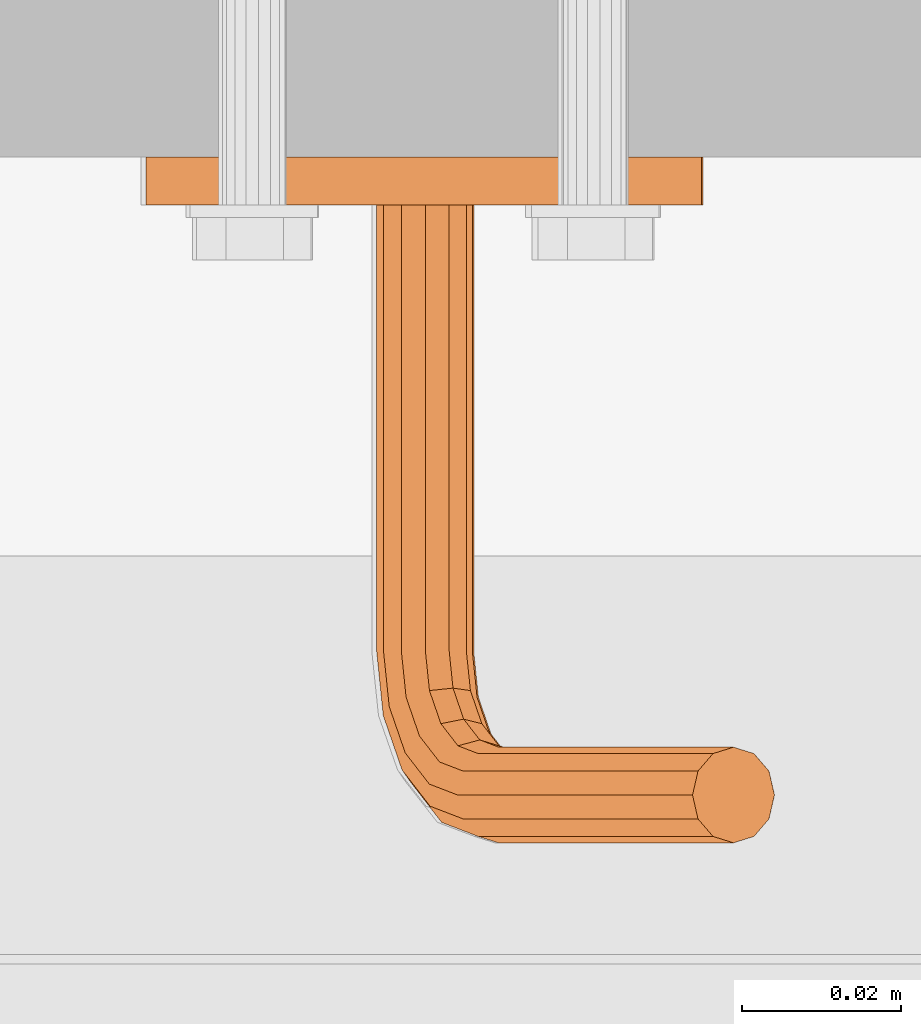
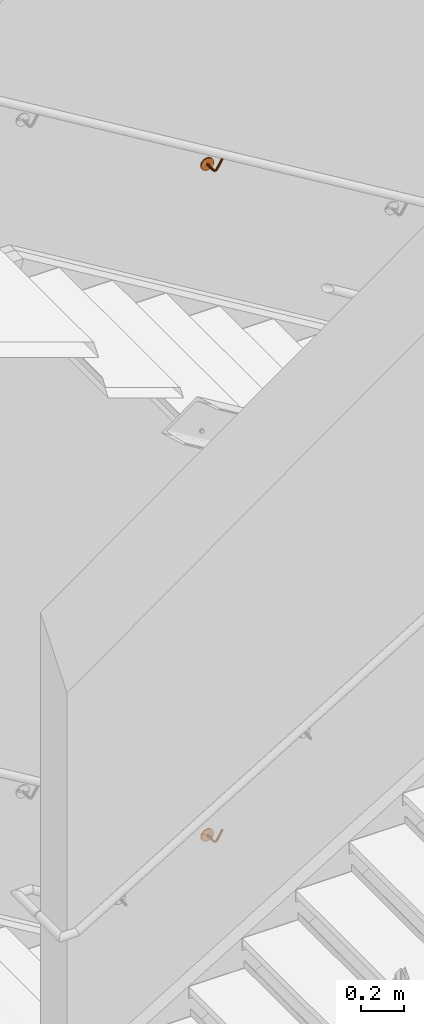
# One storey, part 392 of 410: 2 proxies.
"""IFC2X3 building model written with IfcOpenShell, lengths in millimetres."""

from ifc_helpers import new_model, entity, si_unit, converted_unit, origin_with_axes, place, context, project, spatial, faceted_brep, element, save


model = new_model("IFC2X3")

# Units and contexts
model_context = context("Model", 3, precision=1e-09, world=origin_with_axes())
ifc_project = project(units=[si_unit("LENGTHUNIT", "METRE", prefix="MILLI"), si_unit("AREAUNIT", "SQUARE_METRE"), si_unit("VOLUMEUNIT", "CUBIC_METRE"), converted_unit("PLANEANGLEUNIT", "DEGREE", entity("IfcPlaneAngleMeasure", 0.01745329), si_unit("PLANEANGLEUNIT", "RADIAN"), dimensions=[0, 0, 0, 0, 0, 0, 0])], contexts=[model_context])

# Site, building, storey
site_placement = place(None, origin_with_axes())
site = spatial("IfcSite", under=ifc_project, at=site_placement, Name="mKR Teilneubau & Sanierung BA1 - Ostfildern", CompositionType="ELEMENT")
building_placement = place(site_placement, origin_with_axes())
building = spatial("IfcBuilding", under=site, at=building_placement, Name="Struktur 1", CompositionType="ELEMENT")
storey_placement = place(building_placement, origin_with_axes())
storey = spatial("IfcBuildingStorey", under=building, at=storey_placement, Name="Default Storey", CompositionType="ELEMENT", Elevation=0.0)

# Proxies
proxy_1_placement = place(None, origin_with_axes())
element("IfcBuildingElementProxy", 1, at=proxy_1_placement, inside=storey, ObjectType="-", context=model_context, shape_type="Brep", body=[
    faceted_brep([(47.7912748, 18620.000061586, 7507.643587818), (47.7912748, 18614.000061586, 7507.643587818), (46.205855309, 18614.000061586, 7506.118373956), (46.205855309, 18620.000061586, 7506.118373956), (102.778214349, 18614.000061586, 7506.202316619), (96.135632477, 18614.000061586, 7515.61634147), (86.79623514, 18614.000061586, 7522.36344568), (75.772090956, 18614.000061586, 7525.712475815), (64.257837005, 18614.000061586, 7525.300512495), (53.501221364, 18614.000061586, 7521.172198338), (44.667890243, 18614.000061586, 7513.77490024), (38.715072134, 18614.000061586, 7503.91023023), (36.287847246, 18614.000061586, 7492.647178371), (37.649243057, 18614.000061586, 7481.206271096), (42.651731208, 18614.000061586, 7470.827308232), (50.753214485, 18614.000061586, 7462.635011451), (61.075771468, 18614.000061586, 7457.517143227), (72.500792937, 18614.000061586, 7456.028303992), (83.790200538, 18614.000061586, 7458.329832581), (93.720611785, 18614.000061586, 7464.172322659), (101.215912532, 18614.000061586, 7472.922649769), (105.463870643, 18614.000061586, 7483.632580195), (106.004153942, 18614.000061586, 7495.141526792), (90.600657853, 18614.000061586, 7481.810339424), (92.736278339, 18614.000061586, 7482.33850363), (94.849862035, 18614.000061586, 7481.728097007), (96.375075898, 18614.000061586, 7480.142677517), (96.903240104, 18614.000061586, 7478.007057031), (96.292833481, 18614.000061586, 7475.893473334), (94.707413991, 18614.000061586, 7474.368259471), (92.571793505, 18614.000061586, 7473.840095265), (90.458209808, 18614.000061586, 7474.450501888), (88.932995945, 18614.000061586, 7476.035921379), (88.404831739, 18614.000061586, 7478.171541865), (89.015238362, 18614.000061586, 7480.285125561), (49.926895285, 18614.000061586, 7508.171752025), (52.040478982, 18614.000061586, 7507.561345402), (53.565692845, 18614.000061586, 7505.975925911), (54.093857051, 18614.000061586, 7503.840305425), (53.483450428, 18614.000061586, 7501.726721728), (51.898030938, 18614.000061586, 7500.201507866), (49.762410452, 18614.000061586, 7499.673343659), (47.648826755, 18614.000061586, 7500.283750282), (46.123612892, 18614.000061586, 7501.869169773), (45.595448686, 18614.000061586, 7504.004790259), (49.926895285, 18620.000061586, 7508.171752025), (72.500792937, 18620.000061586, 7456.028303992), (61.075771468, 18620.000061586, 7457.517143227), (50.753214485, 18620.000061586, 7462.635011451), (42.651731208, 18620.000061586, 7470.827308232), (37.649243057, 18620.000061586, 7481.206271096), (36.287847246, 18620.000061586, 7492.647178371), (38.715072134, 18620.000061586, 7503.91023023), (44.667890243, 18620.000061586, 7513.77490024), (53.501221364, 18620.000061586, 7521.172198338), (64.257837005, 18620.000061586, 7525.300512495), (75.772090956, 18620.000061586, 7525.712475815), (86.79623514, 18620.000061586, 7522.36344568), (96.135632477, 18620.000061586, 7515.61634147), (102.778214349, 18620.000061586, 7506.202316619), (106.004153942, 18620.000061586, 7495.141526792), (105.463870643, 18620.000061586, 7483.632580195), (101.215912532, 18620.000061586, 7472.922649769), (93.720611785, 18620.000061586, 7464.172322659), (83.790200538, 18620.000061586, 7458.329832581), (45.595448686, 18620.000061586, 7504.004790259), (46.123612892, 18620.000061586, 7501.869169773), (47.648826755, 18620.000061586, 7500.283750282), (49.762410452, 18620.000061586, 7499.673343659), (51.898030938, 18620.000061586, 7500.201507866), (53.483450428, 18620.000061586, 7501.726721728), (54.093857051, 18620.000061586, 7503.840305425), (53.565692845, 18620.000061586, 7505.975925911), (52.040478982, 18620.000061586, 7507.561345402), (88.404831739, 18620.000061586, 7478.171541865), (88.932995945, 18620.000061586, 7476.035921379), (90.458209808, 18620.000061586, 7474.450501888), (92.571793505, 18620.000061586, 7473.840095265), (94.707413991, 18620.000061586, 7474.368259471), (96.292833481, 18620.000061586, 7475.893473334), (96.903240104, 18620.000061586, 7478.007057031), (96.375075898, 18620.000061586, 7480.142677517), (94.849862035, 18620.000061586, 7481.728097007), (92.736278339, 18620.000061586, 7482.33850363), (90.600657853, 18620.000061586, 7481.810339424), (89.015238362, 18620.000061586, 7480.285125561)], [[[0, 1, 2, 3]], [[4, 5, 6, 7, 8, 9, 10, 11, 12, 13, 14, 15, 16, 17, 18, 19, 20, 21, 22], [23, 24, 25, 26, 27, 28, 29, 30, 31, 32, 33, 34], [2, 1, 35, 36, 37, 38, 39, 40, 41, 42, 43, 44]], [[1, 0, 45, 35]], [[46, 47, 48, 49, 50, 51, 52, 53, 54, 55, 56, 57, 58, 59, 60, 61, 62, 63, 64], [0, 3, 65, 66, 67, 68, 69, 70, 71, 72, 73, 45], [74, 75, 76, 77, 78, 79, 80, 81, 82, 83, 84, 85]], [[3, 2, 44, 65]], [[10, 53, 52, 11]], [[65, 44, 43, 66]], [[35, 45, 73, 36]], [[53, 10, 9, 54]], [[66, 43, 42, 67]], [[11, 52, 51, 12]], [[36, 73, 72, 37]], [[8, 55, 54, 9]], [[67, 42, 41, 68]], [[55, 8, 7, 56]], [[50, 13, 12, 51]], [[37, 72, 71, 38]], [[13, 50, 49, 14]], [[68, 41, 40, 69]], [[38, 71, 70, 39]], [[56, 7, 6, 57]], [[69, 40, 39, 70]], [[14, 49, 48, 15]], [[57, 6, 5, 58]], [[34, 85, 84, 23]], [[15, 48, 47, 16]], [[85, 34, 33, 74]], [[23, 84, 83, 24]], [[58, 5, 4, 59]], [[16, 47, 46, 17]], [[74, 33, 32, 75]], [[24, 83, 82, 25]], [[59, 4, 22, 60]], [[17, 46, 64, 18]], [[75, 32, 31, 76]], [[25, 82, 81, 26]], [[60, 22, 21, 61]], [[18, 64, 63, 19]], [[76, 31, 30, 77]], [[20, 62, 61, 21]], [[26, 81, 80, 27]], [[62, 20, 19, 63]], [[77, 30, 29, 78]], [[27, 80, 79, 28]], [[78, 29, 28, 79]]]),
    faceted_brep([(76.386470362, 18558.000061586, 7487.905933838), (76.386470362, 18614.000061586, 7487.905933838), (77.248220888, 18614.000061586, 7490.889816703), (77.248220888, 18558.000061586, 7490.889816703), (84.998195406, 18537.000061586, 7503.732631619), (114.448098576, 18537.000061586, 7552.5353283), (112.56777997, 18534.803909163, 7553.670003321), (83.1178768, 18534.803909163, 7504.86730664), (85.686439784, 18540.000061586, 7503.317311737), (115.136342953, 18540.000061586, 7552.120008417), (78.53155388, 18536.569611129, 7497.267114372), (80.846093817, 18538.598591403, 7496.852006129), (65.996111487, 18614.000061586, 7488.107036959), (65.250467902, 18614.000061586, 7491.122030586), (66.112218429, 18614.000061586, 7494.105913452), (68.35045771, 18614.000061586, 7496.259156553), (71.365451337, 18614.000061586, 7497.004800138), (74.349334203, 18614.000061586, 7496.143049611), (76.502577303, 18614.000061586, 7493.904810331), (74.148231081, 18614.000061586, 7485.752690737), (71.133237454, 18614.000061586, 7485.007047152), (68.149354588, 18614.000061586, 7485.868797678), (74.148231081, 18558.000061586, 7485.752690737), (77.838152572, 18552.2598101, 7491.867417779), (77.094388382, 18551.111759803, 7489.079055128), (107.430654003, 18545.196214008, 7556.769993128), (105.550335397, 18543.000061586, 7557.904668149), (104.86209102, 18540.000061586, 7558.319988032), (105.550335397, 18537.000061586, 7557.904668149), (107.430654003, 18534.803909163, 7556.769993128), (109.999216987, 18534.000061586, 7555.219998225), (114.448098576, 18543.000061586, 7552.5353283), (112.56777997, 18545.196214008, 7553.670003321), (109.999216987, 18546.000061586, 7555.219998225), (82.127495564, 18541.37023, 7497.419632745), (77.326112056, 18543.150819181, 7491.018893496), (79.11036834, 18545.272139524, 7492.419821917), (76.502577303, 18558.000061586, 7493.904810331), (74.974135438, 18549.963709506, 7487.121332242), (80.549313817, 18534.000061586, 7506.417301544), (84.998195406, 18543.000061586, 7503.732631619), (75.804054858, 18535.826952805, 7498.553729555), (74.643457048, 18541.59790491, 7490.82398248), (79.518135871, 18547.393459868, 7494.651390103), (77.006136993, 18553.100241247, 7494.739280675), (71.133237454, 18558.000061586, 7485.007047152), (82.032408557, 18544.141868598, 7498.817899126), (74.349334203, 18558.000061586, 7496.143049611), (72.045513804, 18549.123278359, 7486.518819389), (77.980750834, 18534.803909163, 7507.967296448), (83.1178768, 18545.196214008, 7504.86730664), (73.394427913, 18536.569611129, 7500.367104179), (71.78121856, 18541.029498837, 7491.887315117), (78.440153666, 18548.946374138, 7497.115651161), (74.821279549, 18553.407860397, 7496.925130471), (68.149354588, 18558.000061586, 7485.868797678), (80.586311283, 18546.170848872, 7500.672140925), (76.100432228, 18537.000061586, 7509.101971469), (71.365451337, 18558.000061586, 7497.004800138), (69.093245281, 18548.815659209, 7487.432959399), (80.549313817, 18546.000061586, 7506.417301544), (71.948330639, 18538.598591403, 7502.221345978), (69.506331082, 18541.59790491, 7493.923972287), (76.165266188, 18549.514780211, 7499.152308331), (71.869011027, 18553.100241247, 7497.839270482), (65.996111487, 18558.000061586, 7488.107036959), (78.176684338, 18546.913507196, 7502.485515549), (75.412187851, 18540.000061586, 7509.517291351), (68.35045771, 18558.000061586, 7496.259156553), (66.908387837, 18549.123278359, 7489.618809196), (77.980750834, 18545.196214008, 7507.967296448), (76.100432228, 18543.000061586, 7509.101971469), (71.853243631, 18541.37023, 7503.619612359), (68.428348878, 18543.150819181, 7496.388233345), (73.3030277, 18548.946374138, 7500.215640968), (68.940389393, 18552.2598101, 7497.236757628), (66.112218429, 18558.000061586, 7494.105913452), (65.250467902, 18558.000061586, 7491.122030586), (75.449185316, 18546.170848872, 7503.772130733), (66.076372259, 18549.963709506, 7492.490672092), (73.134645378, 18544.141868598, 7504.187238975), (68.836116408, 18545.272139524, 7498.619801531), (66.820136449, 18551.111759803, 7495.279034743), (70.620372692, 18547.393459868, 7500.020729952)], [[[0, 1, 2, 3]], [[4, 5, 6, 7]], [[5, 4, 8, 9]], [[4, 7, 10, 11]], [[12, 13, 14, 15, 16, 17, 18, 2, 1, 19, 20, 21]], [[1, 0, 22, 19]], [[0, 3, 23, 24]], [[25, 26, 27, 28, 29, 30, 6, 5, 9, 31, 32, 33]], [[11, 34, 8, 4]], [[35, 36, 34, 11]], [[3, 2, 18, 37]], [[24, 38, 22, 0]], [[36, 35, 38, 24]], [[7, 6, 30, 39]], [[9, 8, 40, 31]], [[7, 39, 41, 10]], [[11, 10, 42, 35]], [[24, 23, 43, 36]], [[3, 37, 44, 23]], [[19, 22, 45, 20]], [[36, 43, 46, 34]], [[34, 46, 40, 8]], [[37, 18, 17, 47]], [[38, 48, 45, 22]], [[35, 42, 48, 38]], [[39, 30, 29, 49]], [[31, 40, 50, 32]], [[39, 49, 51, 41]], [[10, 41, 52, 42]], [[23, 44, 53, 43]], [[37, 47, 54, 44]], [[20, 45, 55, 21]], [[43, 53, 56, 46]], [[46, 56, 50, 40]], [[49, 29, 28, 57]], [[47, 17, 16, 58]], [[48, 59, 55, 45]], [[42, 52, 59, 48]], [[32, 50, 60, 33]], [[49, 57, 61, 51]], [[41, 51, 62, 52]], [[44, 54, 63, 53]], [[47, 58, 64, 54]], [[21, 55, 65, 12]], [[56, 66, 60, 50]], [[53, 63, 66, 56]], [[57, 28, 27, 67]], [[58, 16, 15, 68]], [[59, 69, 65, 55]], [[52, 62, 69, 59]], [[33, 60, 70, 25]], [[26, 71, 67, 27]], [[25, 70, 71, 26]], [[57, 67, 72, 61]], [[51, 61, 73, 62]], [[54, 64, 74, 63]], [[58, 68, 75, 64]], [[14, 76, 68, 15]], [[13, 77, 76, 14]], [[12, 65, 77, 13]], [[66, 78, 70, 60]], [[63, 74, 78, 66]], [[69, 79, 77, 65]], [[62, 73, 79, 69]], [[67, 71, 80, 72]], [[71, 70, 78, 80]], [[61, 72, 81, 73]], [[68, 76, 82, 75]], [[64, 75, 83, 74]], [[76, 77, 79, 82]], [[74, 83, 80, 78]], [[73, 81, 82, 79]], [[72, 80, 83, 81]], [[75, 82, 81, 83]]]),
])
proxy_2_placement = place(None, origin_with_axes())
element("IfcBuildingElementProxy", 2, at=proxy_2_placement, inside=storey, ObjectType="-", context=model_context, shape_type="Brep", body=[
    faceted_brep([(47.922447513, 18620.000061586, 3664.357330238), (47.922447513, 18614.000061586, 3664.357330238), (46.341231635, 18614.000061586, 3662.827758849), (46.341231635, 18620.000061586, 3662.827758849), (102.913145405, 18614.000061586, 3663.067396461), (96.244679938, 18614.000061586, 3672.463104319), (86.88674897, 18614.000061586, 3679.184479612), (75.853429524, 18614.000061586, 3682.503157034), (64.340352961, 18614.000061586, 3682.059506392), (53.595139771, 18614.000061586, 3677.901604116), (44.782200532, 18614.000061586, 3670.480023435), (38.856553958, 18614.000061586, 3660.599007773), (36.4603358, 18614.000061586, 3649.329318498), (37.853213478, 18614.000061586, 3637.892201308), (42.884247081, 18614.000061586, 3627.527045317), (51.008246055, 18614.000061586, 3619.357076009), (61.344849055, 18614.000061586, 3614.267636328), (72.773924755, 18614.000061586, 3612.810246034), (84.056955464, 18614.000061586, 3615.142835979), (93.97124973, 18614.000061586, 3621.01263385), (101.442439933, 18614.000061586, 3629.783555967), (105.660906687, 18614.000061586, 3640.505136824), (106.169513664, 18614.000061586, 3652.015526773), (50.056606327, 18614.000061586, 3664.891369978), (52.171861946, 18614.000061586, 3664.286782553), (53.701433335, 18614.000061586, 3662.705566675), (54.235473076, 18614.000061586, 3660.571407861), (53.630885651, 18614.000061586, 3658.456152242), (52.049669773, 18614.000061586, 3656.926580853), (49.915510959, 18614.000061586, 3656.392541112), (47.80025534, 18614.000061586, 3656.997128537), (46.27068395, 18614.000061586, 3658.578344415), (45.73664421, 18614.000061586, 3660.71250323), (90.802765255, 18614.000061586, 3638.641997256), (92.936924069, 18614.000061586, 3639.176036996), (95.052179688, 18614.000061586, 3638.571449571), (96.581751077, 18614.000061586, 3636.990233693), (97.115790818, 18614.000061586, 3634.856074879), (96.511203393, 18614.000061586, 3632.74081926), (94.929987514, 18614.000061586, 3631.211247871), (92.7958287, 18614.000061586, 3630.67720813), (90.680573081, 18614.000061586, 3631.281795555), (89.151001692, 18614.000061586, 3632.863011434), (88.616961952, 18614.000061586, 3634.997170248), (89.221549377, 18614.000061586, 3637.112425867), (50.056606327, 18620.000061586, 3664.891369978), (72.773924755, 18620.000061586, 3612.810246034), (61.344849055, 18620.000061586, 3614.267636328), (51.008246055, 18620.000061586, 3619.357076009), (42.884247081, 18620.000061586, 3627.527045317), (37.853213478, 18620.000061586, 3637.892201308), (36.4603358, 18620.000061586, 3649.329318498), (38.856553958, 18620.000061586, 3660.599007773), (44.782200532, 18620.000061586, 3670.480023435), (53.595139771, 18620.000061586, 3677.901604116), (64.340352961, 18620.000061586, 3682.059506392), (75.853429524, 18620.000061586, 3682.503157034), (86.88674897, 18620.000061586, 3679.184479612), (96.244679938, 18620.000061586, 3672.463104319), (102.913145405, 18620.000061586, 3663.067396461), (106.169513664, 18620.000061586, 3652.015526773), (105.660906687, 18620.000061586, 3640.505136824), (101.442439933, 18620.000061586, 3629.783555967), (93.97124973, 18620.000061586, 3621.01263385), (84.056955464, 18620.000061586, 3615.142835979), (88.616961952, 18620.000061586, 3634.997170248), (89.151001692, 18620.000061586, 3632.863011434), (90.680573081, 18620.000061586, 3631.281795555), (92.7958287, 18620.000061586, 3630.67720813), (94.929987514, 18620.000061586, 3631.211247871), (96.511203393, 18620.000061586, 3632.74081926), (97.115790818, 18620.000061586, 3634.856074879), (96.581751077, 18620.000061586, 3636.990233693), (95.052179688, 18620.000061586, 3638.571449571), (92.936924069, 18620.000061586, 3639.176036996), (90.802765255, 18620.000061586, 3638.641997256), (89.221549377, 18620.000061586, 3637.112425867), (45.73664421, 18620.000061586, 3660.71250323), (46.27068395, 18620.000061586, 3658.578344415), (47.80025534, 18620.000061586, 3656.997128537), (49.915510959, 18620.000061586, 3656.392541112), (52.049669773, 18620.000061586, 3656.926580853), (53.630885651, 18620.000061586, 3658.456152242), (54.235473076, 18620.000061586, 3660.571407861), (53.701433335, 18620.000061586, 3662.705566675), (52.171861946, 18620.000061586, 3664.286782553)], [[[0, 1, 2, 3]], [[4, 5, 6, 7, 8, 9, 10, 11, 12, 13, 14, 15, 16, 17, 18, 19, 20, 21, 22], [2, 1, 23, 24, 25, 26, 27, 28, 29, 30, 31, 32], [33, 34, 35, 36, 37, 38, 39, 40, 41, 42, 43, 44]], [[1, 0, 45, 23]], [[46, 47, 48, 49, 50, 51, 52, 53, 54, 55, 56, 57, 58, 59, 60, 61, 62, 63, 64], [65, 66, 67, 68, 69, 70, 71, 72, 73, 74, 75, 76], [0, 3, 77, 78, 79, 80, 81, 82, 83, 84, 85, 45]], [[3, 2, 32, 77]], [[10, 53, 52, 11]], [[77, 32, 31, 78]], [[23, 45, 85, 24]], [[53, 10, 9, 54]], [[78, 31, 30, 79]], [[11, 52, 51, 12]], [[24, 85, 84, 25]], [[8, 55, 54, 9]], [[79, 30, 29, 80]], [[55, 8, 7, 56]], [[50, 13, 12, 51]], [[25, 84, 83, 26]], [[13, 50, 49, 14]], [[80, 29, 28, 81]], [[26, 83, 82, 27]], [[56, 7, 6, 57]], [[81, 28, 27, 82]], [[14, 49, 48, 15]], [[57, 6, 5, 58]], [[44, 76, 75, 33]], [[15, 48, 47, 16]], [[76, 44, 43, 65]], [[33, 75, 74, 34]], [[58, 5, 4, 59]], [[16, 47, 46, 17]], [[65, 43, 42, 66]], [[34, 74, 73, 35]], [[59, 4, 22, 60]], [[17, 46, 64, 18]], [[66, 42, 41, 67]], [[35, 73, 72, 36]], [[60, 22, 21, 61]], [[18, 64, 63, 19]], [[67, 41, 40, 68]], [[20, 62, 61, 21]], [[36, 72, 71, 37]], [[62, 20, 19, 63]], [[68, 40, 39, 69]], [[37, 71, 70, 38]], [[69, 39, 38, 70]]]),
    faceted_brep([(76.571855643, 18558.000061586, 3644.698449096), (76.571855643, 18614.000061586, 3644.698449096), (77.425390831, 18614.000061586, 3647.684692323), (77.425390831, 18558.000061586, 3647.684692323), (85.139990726, 18537.000061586, 3660.548787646), (114.455470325, 18537.000061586, 3709.432349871), (112.572036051, 18534.803909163, 3710.561845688), (83.256556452, 18534.803909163, 3661.678283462), (85.829375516, 18540.000061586, 3660.135363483), (115.144855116, 18540.000061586, 3709.018925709), (78.691167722, 18536.569611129, 3654.065497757), (81.006841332, 18538.598591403, 3653.656761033), (66.180982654, 18614.000061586, 3644.870955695), (65.427044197, 18614.000061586, 3647.883885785), (66.280579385, 18614.000061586, 3650.870129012), (68.512884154, 18614.000061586, 3653.029523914), (71.525814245, 18614.000061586, 3653.783462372), (74.512057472, 18614.000061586, 3652.929927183), (76.671452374, 18614.000061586, 3650.697622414), (74.339550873, 18614.000061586, 3642.539054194), (71.326620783, 18614.000061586, 3641.785115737), (68.340377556, 18614.000061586, 3642.638650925), (74.339550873, 18558.000061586, 3642.539054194), (78.012629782, 18552.2598101, 3648.663913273), (77.276542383, 18551.111759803, 3645.873514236), (107.426397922, 18545.196214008, 3713.647685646), (105.542963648, 18543.000061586, 3714.777181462), (104.853578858, 18540.000061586, 3715.190605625), (105.542963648, 18537.000061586, 3714.777181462), (107.426397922, 18534.803909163, 3713.647685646), (109.999216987, 18534.000061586, 3712.104765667), (114.455470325, 18543.000061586, 3709.432349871), (112.572036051, 18545.196214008, 3710.561845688), (109.999216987, 18546.000061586, 3712.104765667), (82.286676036, 18541.37023, 3654.227912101), (77.502926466, 18543.150819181, 3647.813982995), (79.283320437, 18545.272139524, 3649.21981664), (76.671452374, 18558.000061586, 3650.697622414), (75.161685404, 18549.963709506, 3643.909963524), (80.683737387, 18534.000061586, 3663.221203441), (85.139990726, 18543.000061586, 3660.548787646), (75.96013808, 18535.826952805, 3655.344601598), (74.820818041, 18541.59790491, 3647.611689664), (79.684944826, 18547.393459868, 3651.452498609), (77.172713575, 18553.100241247, 3651.533475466), (71.326620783, 18558.000061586, 3641.785115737), (82.187741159, 18544.141868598, 3655.625911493), (74.512057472, 18558.000061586, 3652.929927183), (72.234733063, 18549.123278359, 3643.299392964), (78.110918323, 18534.803909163, 3664.76412342), (83.256556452, 18545.196214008, 3661.678283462), (73.545529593, 18536.569611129, 3657.151337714), (71.955663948, 18541.029498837, 3648.667140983), (78.600184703, 18548.946374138, 3653.913783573), (74.981848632, 18553.407860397, 3653.713303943), (68.340377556, 18558.000061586, 3642.638650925), (80.736546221, 18546.170848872, 3657.476166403), (76.227484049, 18537.000061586, 3665.893619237), (71.525814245, 18558.000061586, 3653.783462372), (69.279959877, 18548.815659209, 3644.205404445), (80.683737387, 18546.000061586, 3663.221203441), (72.094334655, 18538.598591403, 3659.001592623), (69.675179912, 18541.59790491, 3650.697529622), (76.319700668, 18549.514780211, 3655.944172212), (72.027075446, 18553.100241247, 3654.619315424), (66.180982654, 18558.000061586, 3644.870955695), (78.321937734, 18546.913507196, 3659.282902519), (75.538099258, 18540.000061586, 3666.307043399), (68.512884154, 18558.000061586, 3653.029523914), (67.089094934, 18549.123278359, 3646.385232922), (78.110918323, 18545.196214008, 3664.76412342), (76.227484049, 18543.000061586, 3665.893619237), (71.995399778, 18541.37023, 3660.399592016), (68.590419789, 18543.150819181, 3653.158814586), (73.454546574, 18548.946374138, 3656.999623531), (69.100123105, 18552.2598101, 3654.008744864), (66.280579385, 18558.000061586, 3650.870129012), (65.427044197, 18558.000061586, 3647.883885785), (75.590908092, 18546.170848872, 3660.56200636), (66.249178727, 18549.963709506, 3649.254795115), (73.275234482, 18544.141868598, 3660.970743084), (68.992044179, 18545.272139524, 3655.391496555), (66.985266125, 18551.111759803, 3652.045194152), (70.772438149, 18547.393459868, 3656.7973302)], [[[0, 1, 2, 3]], [[4, 5, 6, 7]], [[5, 4, 8, 9]], [[4, 7, 10, 11]], [[12, 13, 14, 15, 16, 17, 18, 2, 1, 19, 20, 21]], [[1, 0, 22, 19]], [[0, 3, 23, 24]], [[25, 26, 27, 28, 29, 30, 6, 5, 9, 31, 32, 33]], [[11, 34, 8, 4]], [[35, 36, 34, 11]], [[3, 2, 18, 37]], [[24, 38, 22, 0]], [[36, 35, 38, 24]], [[7, 6, 30, 39]], [[9, 8, 40, 31]], [[7, 39, 41, 10]], [[11, 10, 42, 35]], [[24, 23, 43, 36]], [[3, 37, 44, 23]], [[19, 22, 45, 20]], [[36, 43, 46, 34]], [[34, 46, 40, 8]], [[37, 18, 17, 47]], [[38, 48, 45, 22]], [[35, 42, 48, 38]], [[39, 30, 29, 49]], [[31, 40, 50, 32]], [[39, 49, 51, 41]], [[10, 41, 52, 42]], [[23, 44, 53, 43]], [[37, 47, 54, 44]], [[20, 45, 55, 21]], [[43, 53, 56, 46]], [[46, 56, 50, 40]], [[49, 29, 28, 57]], [[47, 17, 16, 58]], [[48, 59, 55, 45]], [[42, 52, 59, 48]], [[32, 50, 60, 33]], [[49, 57, 61, 51]], [[41, 51, 62, 52]], [[44, 54, 63, 53]], [[47, 58, 64, 54]], [[21, 55, 65, 12]], [[56, 66, 60, 50]], [[53, 63, 66, 56]], [[57, 28, 27, 67]], [[58, 16, 15, 68]], [[59, 69, 65, 55]], [[52, 62, 69, 59]], [[33, 60, 70, 25]], [[26, 71, 67, 27]], [[25, 70, 71, 26]], [[57, 67, 72, 61]], [[51, 61, 73, 62]], [[54, 64, 74, 63]], [[58, 68, 75, 64]], [[14, 76, 68, 15]], [[13, 77, 76, 14]], [[12, 65, 77, 13]], [[66, 78, 70, 60]], [[63, 74, 78, 66]], [[69, 79, 77, 65]], [[62, 73, 79, 69]], [[67, 71, 80, 72]], [[71, 70, 78, 80]], [[61, 72, 81, 73]], [[68, 76, 82, 75]], [[64, 75, 83, 74]], [[76, 77, 79, 82]], [[74, 83, 80, 78]], [[73, 81, 82, 79]], [[72, 80, 83, 81]], [[75, 82, 81, 83]]]),
])

save(model, "model.ifc")
